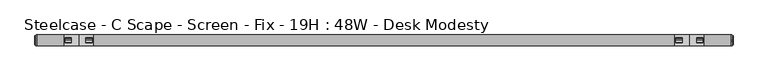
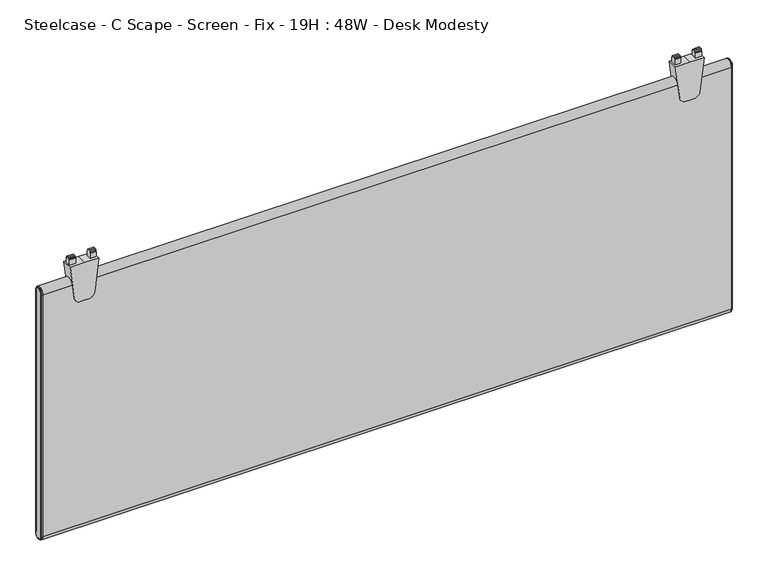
"""IFC4 building model written with IfcOpenShell, lengths in millimetres: furniture geometry, Steelcase - C Scape - Screen - Fix - 19H : 48W - Desk Modesty."""

from ifc_helpers import new_model, si_unit, point, frame, frame_2d, origin, place, context, project, spatial, polyline, circle_curve, ellipse_curve, trimmed, segment, composite_curve, outline, extrude, source, transform, mapped, element, save
from ifc_brep_helpers import plane_surface, cylinder_surface, revolved_surface, advanced_brep


def steelcase_c_scape_screen_fix_19h_48w_desk_modesty_4f0772e2(model_context):
    return source(origin(), model_context, "Body", "SolidModel", [
        extrude(outline(composite_curve([segment(polyline([(697.572888, 101.4730434), (697.572888, 76.2001674), (697.572888, 50.9272915), (637.2477579, 58.3341853)]), True, "CONTINUOUS"), segment(trimmed(circle_curve(frame_2d((638.5696282, 69.1001018)), 10.8467645), [point((637.2477579, 58.3341853))], [point((627.7228638, 69.1001018))], False, "CARTESIAN"), True, "CONTINUOUS"), segment(polyline([(627.7228638, 69.1001018), (627.7228638, 76.2001674), (627.7228638, 83.300233)]), True, "CONTINUOUS"), segment(trimmed(circle_curve(frame_2d((638.5696282, 83.300233)), 10.8467645), [point((627.7228638, 83.300233))], [point((637.2477579, 94.0661495))], False, "CARTESIAN"), True, "CONTINUOUS"), segment(polyline([(637.2477579, 94.0661495), (697.572888, 101.4730434)]), True, "CONTINUOUS")], self_intersect=False)), frame((0.0, -9.525, 0.0), z_axis=(0.0, 1.0, 0.0), x_axis=(0.0, 0.0, 1.0)), (0.0, 0.0, 1.0), 19.05),
        extrude(outline(polyline([(-4.5465975, 697.572888), (-4.5465975, 707.4788967), (-4.0139265, 708.3653252), (-2.9972008, 708.3653252), (-2.9972008, 710.6005812), (0.0, 710.692), (2.9972008, 710.6005812), (2.9972008, 708.3653252), (4.0139265, 708.3653252), (4.5465975, 707.4788967), (4.5465975, 697.572888), (0.0, 697.572888), (-4.5465975, 697.572888)])), frame((88.9267162, 0.0, 0.0), z_axis=(1.0, 0.0, 0.0), x_axis=(0.0, 1.0, 0.0)), (0.0, 0.0, 1.0), 10.7813187),
        extrude(outline(polyline([(-4.5465975, 697.572888), (-4.5465975, 707.4788967), (-4.0139265, 708.3653252), (-2.9972008, 708.3653252), (-2.9972008, 710.6005812), (0.0, 710.692), (2.9972008, 710.6005812), (2.9972008, 708.3653252), (4.0139265, 708.3653252), (4.5465975, 707.4788967), (4.5465975, 697.572888), (0.0, 697.572888), (-4.5465975, 697.572888)])), frame((52.6923, 0.0, 0.0), z_axis=(1.0, 0.0, 0.0), x_axis=(0.0, 1.0, 0.0)), (0.0, 0.0, 1.0), 10.7813187),
        extrude(outline(composite_curve([segment(polyline([(697.572888, 1167.5107132), (697.572888, 1142.2378372), (697.572888, 1116.9649612), (637.2477579, 1124.3718551)]), True, "CONTINUOUS"), segment(trimmed(circle_curve(frame_2d((638.5696282, 1135.1377716)), 10.8467645), [point((637.2477579, 1124.3718551))], [point((627.7228638, 1135.1377716))], False, "CARTESIAN"), True, "CONTINUOUS"), segment(polyline([(627.7228638, 1135.1377716), (627.7228638, 1142.2378372), (627.7228638, 1149.3379028)]), True, "CONTINUOUS"), segment(trimmed(circle_curve(frame_2d((638.5696282, 1149.3379028)), 10.8467645), [point((627.7228638, 1149.3379028))], [point((637.2477579, 1160.1038193))], False, "CARTESIAN"), True, "CONTINUOUS"), segment(polyline([(637.2477579, 1160.1038193), (697.572888, 1167.5107132)]), True, "CONTINUOUS")], self_intersect=False)), frame((0.0, -9.525, 0.0), z_axis=(0.0, 1.0, 0.0), x_axis=(0.0, 0.0, 1.0)), (0.0, 0.0, 1.0), 19.05),
        extrude(outline(polyline([(-4.5465975, 697.572888), (-4.5465975, 707.4788967), (-4.0139265, 708.3653252), (-2.9972008, 708.3653252), (-2.9972008, 710.6005812), (0.0, 710.692), (2.9972008, 710.6005812), (2.9972008, 708.3653252), (4.0139265, 708.3653252), (4.5465975, 707.4788967), (4.5465975, 697.572888), (0.0, 697.572888), (-4.5465975, 697.572888)])), frame((1154.964386, 0.0, 0.0), z_axis=(1.0, 0.0, 0.0), x_axis=(0.0, 1.0, 0.0)), (0.0, 0.0, 1.0), 10.7813187),
        extrude(outline(polyline([(-4.5465975, 697.572888), (-4.5465975, 707.4788967), (-4.0139265, 708.3653252), (-2.9972008, 708.3653252), (-2.9972008, 710.6005812), (0.0, 710.692), (2.9972008, 710.6005812), (2.9972008, 708.3653252), (4.0139265, 708.3653252), (4.5465975, 707.4788967), (4.5465975, 697.572888), (0.0, 697.572888), (-4.5465975, 697.572888)])), frame((1118.7299698, 0.0, 0.0), z_axis=(1.0, 0.0, 0.0), x_axis=(0.0, 1.0, 0.0)), (0.0, 0.0, 1.0), 10.7813187),
        advanced_brep(
        [(1215.6486613, -9.525, 663.067), (1215.6486613, 9.525, 663.067), (1215.6486613, 9.525, 212.217), (1215.6486613, -9.525, 212.217), (1218.4426613, 7.4929583, 663.067), (1218.4426613, -7.4929583, 663.067), (1218.4426613, -7.4929583, 212.217), (1218.4426613, 7.4929583, 212.217), (1217.9346545, -8.0009651, 663.067), (1217.9346545, 8.0009651, 663.067), (1216.6646613, 8.0009651, 663.067), (1216.6646613, -8.0009651, 663.067), (1216.6646613, -8.8204932, 663.067), (1216.6646613, 8.8204932, 663.067), (1216.6646613, -8.0009651, 212.217), (1217.9346545, -8.0009651, 212.217), (1216.6646613, -8.8204932, 212.217), (1216.6646613, 8.0009651, 212.217), (1217.9346545, 8.0009651, 212.217), (1216.6646613, 8.8204932, 212.217)],
        [
            (0, 1, circle_curve(frame((1215.6486613, 0.0, 663.067), z_axis=(-1.0, 0.0, 0.0), x_axis=(0.0, 1.0, 0.0)), 9.525)),
            (1, 2),
            (2, 3, circle_curve(frame((1215.6486613, 0.0, 212.217), z_axis=(-1.0, 0.0, 0.0), x_axis=(0.0, -1.0, 0.0)), 9.525)),
            (3, 0),
            (4, 5, circle_curve(frame((1218.4426613, 0.0, 663.067), z_axis=(1.0, 0.0, 0.0), x_axis=(0.0, 1.0, 0.0)), 7.4929583)),
            (5, 6),
            (6, 7, circle_curve(frame((1218.4426613, 0.0, 212.217), z_axis=(1.0, 0.0, 0.0), x_axis=(0.0, -1.0, 0.0)), 7.4929583)),
            (7, 4),
            (8, 9, circle_curve(frame((1217.9346545, 0.0, 663.067), z_axis=(-1.0, 0.0, 0.0), x_axis=(0.0, 1.0, 0.0)), 8.0009651)),
            (9, 10),
            (10, 11, circle_curve(frame((1216.6646613, 0.0, 663.067), z_axis=(1.0, 0.0, 0.0), x_axis=(0.0, 1.0, 0.0)), 8.0009651)),
            (11, 8),
            (8, 5, circle_curve(frame((1217.9346545, -7.4929583, 663.067), z_axis=(0.0, 0.0, 1.0), x_axis=(0.0, -1.0, 0.0)), 0.5080068)),
            (4, 9, circle_curve(frame((1217.9346545, 7.4929583, 663.067), z_axis=(0.0, 0.0, 1.0), x_axis=(0.0, 1.0, 0.0)), 0.5080068)),
            (12, 13, circle_curve(frame((1216.6646613, 0.0, 663.067), z_axis=(-1.0, 0.0, 0.0), x_axis=(0.0, 1.0, 0.0)), 8.8204932)),
            (13, 1, circle_curve(frame((1215.5806211, 8.3420139, 663.067), z_axis=(0.0, 0.0, 1.0), x_axis=(0.0, 1.0, 0.0)), 1.1849411)),
            (0, 12, circle_curve(frame((1215.5806211, -8.3420139, 663.067), z_axis=(0.0, 0.0, 1.0), x_axis=(0.0, -1.0, 0.0)), 1.1849411)),
            (11, 14),
            (14, 15),
            (15, 8),
            (15, 6, circle_curve(frame((1217.9346545, -7.4929583, 212.217), z_axis=(0.0, 0.0, 1.0), x_axis=(0.0, -1.0, 0.0)), 0.5080068)),
            (3, 16, circle_curve(frame((1215.5806211, -8.3420139, 212.217), z_axis=(0.0, 0.0, 1.0), x_axis=(0.0, -1.0, 0.0)), 1.1849411)),
            (16, 12),
            (14, 17, circle_curve(frame((1216.6646613, 0.0, 212.217), z_axis=(1.0, 0.0, 0.0), x_axis=(0.0, -1.0, 0.0)), 8.0009651)),
            (17, 18),
            (18, 15, circle_curve(frame((1217.9346545, 0.0, 212.217), z_axis=(-1.0, 0.0, 0.0), x_axis=(0.0, -1.0, 0.0)), 8.0009651)),
            (18, 7, circle_curve(frame((1217.9346545, 7.4929583, 212.217), z_axis=(0.0, 0.0, -1.0), x_axis=(0.0, 1.0, 0.0)), 0.5080068)),
            (2, 19, circle_curve(frame((1215.5806211, 8.3420139, 212.217), z_axis=(0.0, 0.0, -1.0), x_axis=(0.0, 1.0, 0.0)), 1.1849411)),
            (19, 16, circle_curve(frame((1216.6646613, 0.0, 212.217), z_axis=(-1.0, 0.0, 0.0), x_axis=(0.0, -1.0, 0.0)), 8.8204932)),
            (9, 18),
            (17, 10),
            (13, 19),
        ],
        [
            plane_surface(frame((1215.6486613, -6.3509705, 663.067), z_axis=(-1.0, 0.0, 0.0), x_axis=(0.0, 0.0, 1.0))),
            plane_surface(frame((1218.4426613, -6.3509705, 663.067), z_axis=(1.0, 0.0, 0.0), x_axis=(0.0, 0.0, -1.0))),
            cylinder_surface(frame((1215.6486613, 0.0, 663.067), z_axis=(1.0, 0.0, 0.0), x_axis=(0.0, 1.0, 0.0)), 8.0009651),
            revolved_surface(trimmed(ellipse_curve(frame((1217.9346545, 7.4929583, 663.067), z_axis=(0.0, 0.0, -1.0), x_axis=(0.0, 1.0, 0.0)), 0.5080068, 0.5080068), [point((1217.9346545, 8.0009651, 663.067))], [point((1218.4426613, 7.4929583, 663.067))], True, "CARTESIAN"), (1215.6486613, 0.0, 663.067), (1.0, 0.0, 0.0)),
            revolved_surface(trimmed(ellipse_curve(frame((1215.5806211, 8.3420139, 663.067), z_axis=(0.0, 0.0, -1.0), x_axis=(0.0, 1.0, 0.0)), 1.1849411, 1.1849411), [point((1215.6486613, 9.525, 663.067))], [point((1216.6646613, 8.8204932, 663.067))], True, "CARTESIAN"), (1215.6486613, 0.0, 663.067), (1.0, 0.0, 0.0)),
            plane_surface(frame((1216.6646613, -8.0009651, 663.067), z_axis=(0.0, -1.0, 0.0), x_axis=(0.0, 0.0, -1.0))),
            cylinder_surface(frame((1217.9346545, -7.4929583, 663.067), z_axis=(0.0, 0.0, 1.0), x_axis=(0.0, -1.0, 0.0)), 0.5080068),
            cylinder_surface(frame((1215.5806211, -8.3420139, 663.067), z_axis=(0.0, 0.0, 1.0), x_axis=(0.0, -1.0, 0.0)), 1.1849411),
            cylinder_surface(frame((1215.6486613, 0.0, 212.217), z_axis=(1.0, 0.0, 0.0), x_axis=(0.0, -1.0, 0.0)), 8.0009651),
            revolved_surface(trimmed(ellipse_curve(frame((1217.9346545, -7.4929583, 212.217), z_axis=(0.0, 0.0, 1.0), x_axis=(0.0, -1.0, 0.0)), 0.5080068, 0.5080068), [point((1217.9346545, -8.0009651, 212.217))], [point((1218.4426613, -7.4929583, 212.217))], True, "CARTESIAN"), (1215.6486613, 0.0, 212.217), (1.0, 0.0, 0.0)),
            revolved_surface(trimmed(ellipse_curve(frame((1215.5806211, -8.3420139, 212.217), z_axis=(0.0, 0.0, 1.0), x_axis=(0.0, -1.0, 0.0)), 1.1849411, 1.1849411), [point((1215.6486613, -9.525, 212.217))], [point((1216.6646613, -8.8204932, 212.217))], True, "CARTESIAN"), (1215.6486613, 0.0, 212.217), (1.0, 0.0, 0.0)),
            plane_surface(frame((1216.6646613, 8.0009651, 212.217), z_axis=(0.0, 1.0, 0.0), x_axis=(0.0, 0.0, 1.0))),
            cylinder_surface(frame((1217.9346545, 7.4929583, 212.217), z_axis=(0.0, 0.0, -1.0), x_axis=(0.0, 1.0, 0.0)), 0.5080068),
            cylinder_surface(frame((1215.5806211, 8.3420139, 212.217), z_axis=(0.0, 0.0, -1.0), x_axis=(0.0, 1.0, 0.0)), 1.1849411),
            plane_surface(frame((1216.6646613, 8.8204932, 212.217), z_axis=(1.0, 0.0, 0.0), x_axis=(0.0, 0.0, 1.0))),
        ],
        [
            (0, [[1, 2, 3, 4]]),
            (1, [[5, 6, 7, 8]]),
            (2, [[9, 10, 11, 12]]),
            (3, [[-9, 13, -5, 14]]),
            (4, [[15, 16, -1, 17]]),
            (5, [[-12, 18, 19, 20]]),
            (6, [[-13, -20, 21, -6]]),
            (7, [[-17, -4, 22, 23]]),
            (8, [[-19, 24, 25, 26]]),
            (9, [[-21, -26, 27, -7]]),
            (10, [[-22, -3, 28, 29]]),
            (11, [[-10, 30, -25, 31]]),
            (12, [[-14, -8, -27, -30]]),
            (13, [[-16, 32, -28, -2]]),
            (14, [[-15, -23, -29, -32], [-11, -31, -24, -18]]),
        ],
    ),
        advanced_brep(
        [(2.7940155, 9.525, 663.067), (2.7940155, -9.525, 663.067), (2.7940155, -9.525, 212.217), (2.7940155, 9.525, 212.217), (0.0, -7.4929583, 663.067), (0.0, 7.4929583, 663.067), (0.0, 7.4929583, 212.217), (0.0, -7.4929583, 212.217), (1.778, 8.8204932, 663.067), (1.778, -8.8204932, 663.067), (0.5080068, -8.0009651, 663.067), (0.5080068, 8.0009651, 663.067), (1.778, -8.0009651, 663.067), (1.778, 8.0009651, 663.067), (1.778, -8.8204932, 212.217), (0.5080068, -8.0009651, 212.217), (1.778, -8.0009651, 212.217), (1.778, 8.8204932, 212.217), (0.5080068, 8.0009651, 212.217), (1.778, 8.0009651, 212.217)],
        [
            (0, 1, circle_curve(frame((2.7940155, 0.0, 663.067), z_axis=(1.0, 0.0, 0.0), x_axis=(0.0, 1.0, 0.0)), 9.525)),
            (1, 2),
            (2, 3, circle_curve(frame((2.7940155, 0.0, 212.217), z_axis=(1.0, 0.0, 0.0), x_axis=(0.0, -1.0, 0.0)), 9.525)),
            (3, 0),
            (4, 5, circle_curve(frame((0.0, 0.0, 663.067), z_axis=(-1.0, 0.0, 0.0), x_axis=(0.0, 1.0, 0.0)), 7.4929583)),
            (5, 6),
            (6, 7, circle_curve(frame((0.0, 0.0, 212.217), z_axis=(-1.0, 0.0, 0.0), x_axis=(0.0, -1.0, 0.0)), 7.4929583)),
            (7, 4),
            (0, 8, circle_curve(frame((2.8620402, 8.3420139, 663.067), z_axis=(0.0, 0.0, 1.0), x_axis=(0.0, -1.0, 0.0)), 1.1849411)),
            (8, 9, circle_curve(frame((1.778, 0.0, 663.067), z_axis=(1.0, 0.0, 0.0), x_axis=(0.0, 1.0, 0.0)), 8.8204932)),
            (9, 1, circle_curve(frame((2.8620402, -8.3420139, 663.067), z_axis=(0.0, 0.0, 1.0), x_axis=(0.0, 1.0, 0.0)), 1.1849411)),
            (10, 11, circle_curve(frame((0.5080068, 0.0, 663.067), z_axis=(-1.0, 0.0, 0.0), x_axis=(0.0, 1.0, 0.0)), 8.0009651)),
            (11, 5, circle_curve(frame((0.5080068, 7.4929583, 663.067), z_axis=(0.0, 0.0, 1.0), x_axis=(0.0, -1.0, 0.0)), 0.5080068)),
            (4, 10, circle_curve(frame((0.5080068, -7.4929583, 663.067), z_axis=(0.0, 0.0, 1.0), x_axis=(0.0, 1.0, 0.0)), 0.5080068)),
            (10, 12),
            (12, 13, circle_curve(frame((1.778, 0.0, 663.067), z_axis=(-1.0, 0.0, 0.0), x_axis=(0.0, 1.0, 0.0)), 8.0009651)),
            (13, 11),
            (9, 14),
            (14, 2, circle_curve(frame((2.8620402, -8.3420139, 212.217), z_axis=(0.0, 0.0, 1.0), x_axis=(0.0, 1.0, 0.0)), 1.1849411)),
            (7, 15, circle_curve(frame((0.5080068, -7.4929583, 212.217), z_axis=(0.0, 0.0, 1.0), x_axis=(0.0, 1.0, 0.0)), 0.5080068)),
            (15, 10),
            (15, 16),
            (16, 12),
            (14, 17, circle_curve(frame((1.778, 0.0, 212.217), z_axis=(1.0, 0.0, 0.0), x_axis=(0.0, -1.0, 0.0)), 8.8204932)),
            (17, 3, circle_curve(frame((2.8620402, 8.3420139, 212.217), z_axis=(0.0, 0.0, -1.0), x_axis=(0.0, -1.0, 0.0)), 1.1849411)),
            (6, 18, circle_curve(frame((0.5080068, 7.4929583, 212.217), z_axis=(0.0, 0.0, -1.0), x_axis=(0.0, -1.0, 0.0)), 0.5080068)),
            (18, 15, circle_curve(frame((0.5080068, 0.0, 212.217), z_axis=(-1.0, 0.0, 0.0), x_axis=(0.0, -1.0, 0.0)), 8.0009651)),
            (18, 19),
            (19, 16, circle_curve(frame((1.778, 0.0, 212.217), z_axis=(-1.0, 0.0, 0.0), x_axis=(0.0, -1.0, 0.0)), 8.0009651)),
            (8, 17),
            (19, 13),
            (11, 18),
        ],
        [
            plane_surface(frame((2.7940155, -6.3509705, 663.067), z_axis=(1.0, 0.0, 0.0), x_axis=(0.0, 0.0, -1.0))),
            plane_surface(frame((0.0, -6.3509705, 663.067), z_axis=(-1.0, 0.0, 0.0), x_axis=(0.0, 0.0, 1.0))),
            revolved_surface(trimmed(ellipse_curve(frame((2.8620402, 8.3420139, 663.067), z_axis=(0.0, 0.0, -1.0), x_axis=(0.0, -1.0, 0.0)), 1.1849411, 1.1849411), [point((1.778, 8.8204932, 663.067))], [point((2.794, 9.525, 663.067))], True, "CARTESIAN"), (2.794, 0.0, 663.067), (1.0, 0.0, 0.0)),
            revolved_surface(trimmed(ellipse_curve(frame((0.5080068, 7.4929583, 663.067), z_axis=(0.0, 0.0, -1.0), x_axis=(0.0, -1.0, 0.0)), 0.5080068, 0.5080068), [point((0.0, 7.4929583, 663.067))], [point((0.5080068, 8.0009651, 663.067))], True, "CARTESIAN"), (2.794, 0.0, 663.067), (1.0, 0.0, 0.0)),
            cylinder_surface(frame((2.794, 0.0, 663.067), z_axis=(1.0, 0.0, 0.0), x_axis=(0.0, 1.0, 0.0)), 8.0009651),
            cylinder_surface(frame((2.8620402, -8.3420139, 663.067), z_axis=(0.0, 0.0, 1.0), x_axis=(0.0, 1.0, 0.0)), 1.1849411),
            cylinder_surface(frame((0.5080068, -7.4929583, 663.067), z_axis=(0.0, 0.0, 1.0), x_axis=(0.0, 1.0, 0.0)), 0.5080068),
            plane_surface(frame((0.5080068, -8.0009651, 663.067), z_axis=(0.0, -1.0, 0.0), x_axis=(0.0, 0.0, -1.0))),
            revolved_surface(trimmed(ellipse_curve(frame((2.8620402, -8.3420139, 212.217), z_axis=(0.0, 0.0, 1.0), x_axis=(0.0, 1.0, 0.0)), 1.1849411, 1.1849411), [point((1.778, -8.8204932, 212.217))], [point((2.794, -9.525, 212.217))], True, "CARTESIAN"), (2.794, 0.0, 212.217), (1.0, 0.0, 0.0)),
            revolved_surface(trimmed(ellipse_curve(frame((0.5080068, -7.4929583, 212.217), z_axis=(0.0, 0.0, 1.0), x_axis=(0.0, 1.0, 0.0)), 0.5080068, 0.5080068), [point((0.0, -7.4929583, 212.217))], [point((0.5080068, -8.0009651, 212.217))], True, "CARTESIAN"), (2.794, 0.0, 212.217), (1.0, 0.0, 0.0)),
            cylinder_surface(frame((2.794, 0.0, 212.217), z_axis=(1.0, 0.0, 0.0), x_axis=(0.0, -1.0, 0.0)), 8.0009651),
            plane_surface(frame((1.778, 8.0009651, 212.217), z_axis=(-1.0, 0.0, 0.0), x_axis=(0.0, 0.0, 1.0))),
            cylinder_surface(frame((2.8620402, 8.3420139, 212.217), z_axis=(0.0, 0.0, -1.0), x_axis=(0.0, -1.0, 0.0)), 1.1849411),
            cylinder_surface(frame((0.5080068, 7.4929583, 212.217), z_axis=(0.0, 0.0, -1.0), x_axis=(0.0, -1.0, 0.0)), 0.5080068),
            plane_surface(frame((0.5080068, 8.0009651, 212.217), z_axis=(0.0, 1.0, 0.0), x_axis=(0.0, 0.0, 1.0))),
        ],
        [
            (0, [[1, 2, 3, 4]]),
            (1, [[5, 6, 7, 8]]),
            (2, [[-1, 9, 10, 11]]),
            (3, [[12, 13, -5, 14]]),
            (4, [[-12, 15, 16, 17]]),
            (5, [[-11, 18, 19, -2]]),
            (6, [[-14, -8, 20, 21]]),
            (7, [[-15, -21, 22, 23]]),
            (8, [[-19, 24, 25, -3]]),
            (9, [[-20, -7, 26, 27]]),
            (10, [[-22, -27, 28, 29]]),
            (11, [[-10, 30, -24, -18], [-16, -23, -29, 31]]),
            (12, [[-9, -4, -25, -30]]),
            (13, [[-13, 32, -26, -6]]),
            (14, [[-17, -31, -28, -32]]),
        ],
    ),
        extrude(outline(composite_curve([segment(trimmed(circle_curve(frame_2d((0.0, 663.067)), 9.525), [point((-9.525, 663.067))], [point((9.525, 663.067))], False, "CARTESIAN"), True, "CONTINUOUS"), segment(polyline([(9.525, 663.067), (9.525, 212.217)]), True, "CONTINUOUS"), segment(trimmed(circle_curve(frame_2d((0.0, 212.217)), 9.525), [point((9.525, 212.217))], [point((-9.525, 212.217))], False, "CARTESIAN"), True, "CONTINUOUS"), segment(polyline([(-9.525, 212.217), (-9.525, 663.067)]), True, "CONTINUOUS")], self_intersect=False)), frame((2.794, 0.0, 0.0), z_axis=(1.0, 0.0, 0.0), x_axis=(0.0, 1.0, 0.0)), (0.0, 0.0, 1.0), 1212.8546613),
    ])


if __name__ == "__main__":
    model = new_model("IFC4")
    model_context = context("Model", 3, world=origin())
    ifc_project = project(units=[si_unit("LENGTHUNIT", "METRE", prefix="MILLI")], contexts=[model_context])
    site = spatial("IfcSite", under=ifc_project)
    building = spatial("IfcBuilding", under=site)
    placement = place(None, origin())
    steelcase_c_scape_screen_fix_19h_48w_desk_modesty_shape = steelcase_c_scape_screen_fix_19h_48w_desk_modesty_4f0772e2(model_context)
    element("IfcFurniture", 1, ObjectType="Steelcase - C Scape - Screen - Fix - 19H : 48W - Desk Modesty", at=placement, inside=building, context=model_context, shape_type="MappedRepresentation", body=[
        mapped(steelcase_c_scape_screen_fix_19h_48w_desk_modesty_shape, transform((0.0, 0.0, 0.0), x_axis=(1.0, 0.0, 0.0), y_axis=(0.0, 1.0, 0.0), z_axis=(0.0, 0.0, 1.0))),
    ])
    save(model, "model.ifc")
